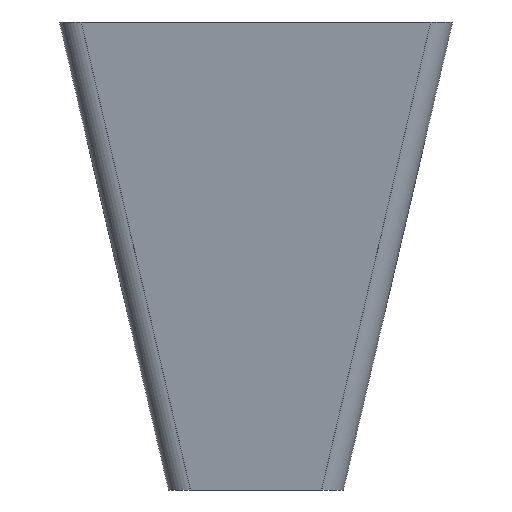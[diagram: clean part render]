
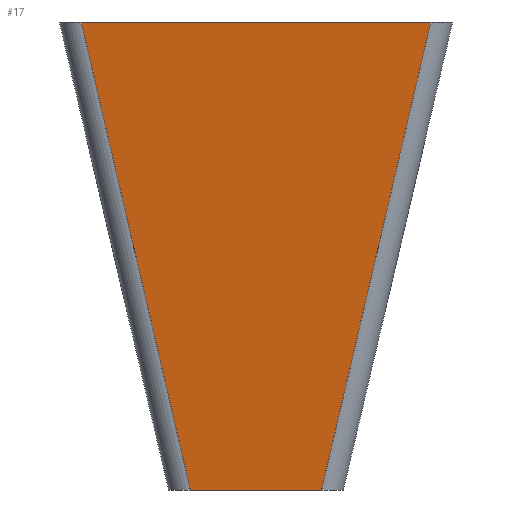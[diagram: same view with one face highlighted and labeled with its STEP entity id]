
A CAD part, left-side view. The second image highlights one B-rep face of the part: STEP entity #17.
In plain terms, the highlighted free-form (B-spline) face has degree [1, 1] with [2, 2] control points.
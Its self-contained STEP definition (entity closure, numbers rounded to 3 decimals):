
#17 = ADVANCED_FACE('',(#18),#32,.T.);
#18 = FACE_BOUND('',#19,.T.);
#19 = EDGE_LOOP('',(#20,#54,#93,#121));
#20 = ORIENTED_EDGE('',*,*,#21,.F.);
#21 = EDGE_CURVE('',#22,#24,#26,.T.);
#22 = VERTEX_POINT('',#23);
#23 = CARTESIAN_POINT('',(25.4,-41.7,-12.71));
#24 = VERTEX_POINT('',#25);
#25 = CARTESIAN_POINT('',(25.4,-38.7,-12.71));
#26 = SURFACE_CURVE('',#27,(#31,#42),.PCURVE_S1.);
#27 = LINE('',#28,#29);
#28 = CARTESIAN_POINT('',(25.4,-40.2,-12.71));
#29 = VECTOR('',#30,1.);
#30 = DIRECTION('',(0.,1.,0.));
#31 = PCURVE('',#32,#37);
#32 = B_SPLINE_SURFACE_WITH_KNOTS('',1,1,(
    (#33,#34)
    ,(#35,#36)),.UNSPECIFIED.,.F.,.F.,.F.,(2,2),(2,2),(-4.,4.),(0.,1.),
  .PIECEWISE_BEZIER_KNOTS.);
#33 = CARTESIAN_POINT('',(25.4,-38.7,-12.71));
#34 = CARTESIAN_POINT('',(23.9,-36.2,-2.));
#35 = CARTESIAN_POINT('',(25.4,-41.7,-12.71));
#36 = CARTESIAN_POINT('',(23.9,-44.2,-2.));
#37 = DEFINITIONAL_REPRESENTATION('',(#38),#41);
#38 = B_SPLINE_CURVE_WITH_KNOTS('',1,(#39,#40),.UNSPECIFIED.,.F.,.F.,(2,
    2),(-1.5,1.5),.PIECEWISE_BEZIER_KNOTS.);
#39 = CARTESIAN_POINT('',(4.,0.));
#40 = CARTESIAN_POINT('',(-4.,0.));
#41 = ( GEOMETRIC_REPRESENTATION_CONTEXT(2) 
PARAMETRIC_REPRESENTATION_CONTEXT() REPRESENTATION_CONTEXT('2D SPACE',''
  ) );
#42 = PCURVE('',#43,#48);
#43 = PLANE('',#44);
#44 = AXIS2_PLACEMENT_3D('',#45,#46,#47);
#45 = CARTESIAN_POINT('',(25.9,-38.7,-12.71));
#46 = DIRECTION('',(0.,0.,1.));
#47 = DIRECTION('',(1.,0.,0.));
#48 = DEFINITIONAL_REPRESENTATION('',(#49),#53);
#49 = LINE('',#50,#51);
#50 = CARTESIAN_POINT('',(-0.5,-1.5));
#51 = VECTOR('',#52,1.);
#52 = DIRECTION('',(0.,1.));
#53 = ( GEOMETRIC_REPRESENTATION_CONTEXT(2) 
PARAMETRIC_REPRESENTATION_CONTEXT() REPRESENTATION_CONTEXT('2D SPACE',''
  ) );
#54 = ORIENTED_EDGE('',*,*,#55,.T.);
#55 = EDGE_CURVE('',#22,#56,#58,.T.);
#56 = VERTEX_POINT('',#57);
#57 = CARTESIAN_POINT('',(23.9,-44.2,-2.));
#58 = SURFACE_CURVE('',#59,(#62,#69),.PCURVE_S1.);
#59 = B_SPLINE_CURVE_WITH_KNOTS('',1,(#60,#61),.UNSPECIFIED.,.F.,.F.,(2,
    2),(0.,1.),.PIECEWISE_BEZIER_KNOTS.);
#60 = CARTESIAN_POINT('',(25.4,-41.7,-12.71));
#61 = CARTESIAN_POINT('',(23.9,-44.2,-2.));
#62 = PCURVE('',#32,#63);
#63 = DEFINITIONAL_REPRESENTATION('',(#64),#68);
#64 = LINE('',#65,#66);
#65 = CARTESIAN_POINT('',(4.,0.));
#66 = VECTOR('',#67,1.);
#67 = DIRECTION('',(0.,1.));
#68 = ( GEOMETRIC_REPRESENTATION_CONTEXT(2) 
PARAMETRIC_REPRESENTATION_CONTEXT() REPRESENTATION_CONTEXT('2D SPACE',''
  ) );
#69 = PCURVE('',#70,#87);
#70 = B_SPLINE_SURFACE_WITH_KNOTS('',7,1,(
    (#71,#72)
    ,(#73,#74)
    ,(#75,#76)
    ,(#77,#78)
    ,(#79,#80)
    ,(#81,#82)
    ,(#83,#84)
    ,(#85,#86
    )),.UNSPECIFIED.,.F.,.F.,.F.,(8,8),(2,2),(3.142,
    4.712),(0.,1.),.PIECEWISE_BEZIER_KNOTS.);
#71 = CARTESIAN_POINT('',(25.4,-41.7,-12.71));
#72 = CARTESIAN_POINT('',(23.9,-44.2,-2.));
#73 = CARTESIAN_POINT('',(25.4,-41.812,-12.71));
#74 = CARTESIAN_POINT('',(23.9,-44.312,-2.));
#75 = CARTESIAN_POINT('',(25.429,-41.924,-12.71));
#76 = CARTESIAN_POINT('',(23.929,-44.424,-2.));
#77 = CARTESIAN_POINT('',(25.488,-42.027,
    -12.71));
#78 = CARTESIAN_POINT('',(23.988,-44.527,-2.));
#79 = CARTESIAN_POINT('',(25.573,-42.112,-12.71));
#80 = CARTESIAN_POINT('',(24.073,-44.612,-2.));
#81 = CARTESIAN_POINT('',(25.676,-42.171,-12.71));
#82 = CARTESIAN_POINT('',(24.176,-44.671,-2.));
#83 = CARTESIAN_POINT('',(25.788,-42.2,-12.71));
#84 = CARTESIAN_POINT('',(24.288,-44.7,-2.));
#85 = CARTESIAN_POINT('',(25.9,-42.2,-12.71));
#86 = CARTESIAN_POINT('',(24.4,-44.7,-2.));
#87 = DEFINITIONAL_REPRESENTATION('',(#88),#92);
#88 = LINE('',#89,#90);
#89 = CARTESIAN_POINT('',(3.142,0.));
#90 = VECTOR('',#91,1.);
#91 = DIRECTION('',(0.,1.));
#92 = ( GEOMETRIC_REPRESENTATION_CONTEXT(2) 
PARAMETRIC_REPRESENTATION_CONTEXT() REPRESENTATION_CONTEXT('2D SPACE',''
  ) );
#93 = ORIENTED_EDGE('',*,*,#94,.T.);
#94 = EDGE_CURVE('',#56,#95,#97,.T.);
#95 = VERTEX_POINT('',#96);
#96 = CARTESIAN_POINT('',(23.9,-36.2,-2.));
#97 = SURFACE_CURVE('',#98,(#102,#109),.PCURVE_S1.);
#98 = LINE('',#99,#100);
#99 = CARTESIAN_POINT('',(23.9,-40.2,-2.));
#100 = VECTOR('',#101,1.);
#101 = DIRECTION('',(0.,1.,0.));
#102 = PCURVE('',#32,#103);
#103 = DEFINITIONAL_REPRESENTATION('',(#104),#108);
#104 = LINE('',#105,#106);
#105 = CARTESIAN_POINT('',(0.,1.));
#106 = VECTOR('',#107,1.);
#107 = DIRECTION('',(-1.,0.));
#108 = ( GEOMETRIC_REPRESENTATION_CONTEXT(2) 
PARAMETRIC_REPRESENTATION_CONTEXT() REPRESENTATION_CONTEXT('2D SPACE',''
  ) );
#109 = PCURVE('',#110,#115);
#110 = PLANE('',#111);
#111 = AXIS2_PLACEMENT_3D('',#112,#113,#114);
#112 = CARTESIAN_POINT('',(24.4,-44.2,-2.));
#113 = DIRECTION('',(0.,0.,1.));
#114 = DIRECTION('',(1.,0.,0.));
#115 = DEFINITIONAL_REPRESENTATION('',(#116),#120);
#116 = LINE('',#117,#118);
#117 = CARTESIAN_POINT('',(-0.5,4.));
#118 = VECTOR('',#119,1.);
#119 = DIRECTION('',(0.,1.));
#120 = ( GEOMETRIC_REPRESENTATION_CONTEXT(2) 
PARAMETRIC_REPRESENTATION_CONTEXT() REPRESENTATION_CONTEXT('2D SPACE',''
  ) );
#121 = ORIENTED_EDGE('',*,*,#122,.F.);
#122 = EDGE_CURVE('',#24,#95,#123,.T.);
#123 = SURFACE_CURVE('',#124,(#127,#134),.PCURVE_S1.);
#124 = B_SPLINE_CURVE_WITH_KNOTS('',1,(#125,#126),.UNSPECIFIED.,.F.,.F.,
  (2,2),(0.,1.),.PIECEWISE_BEZIER_KNOTS.);
#125 = CARTESIAN_POINT('',(25.4,-38.7,-12.71));
#126 = CARTESIAN_POINT('',(23.9,-36.2,-2.));
#127 = PCURVE('',#32,#128);
#128 = DEFINITIONAL_REPRESENTATION('',(#129),#133);
#129 = LINE('',#130,#131);
#130 = CARTESIAN_POINT('',(-4.,0.));
#131 = VECTOR('',#132,1.);
#132 = DIRECTION('',(0.,1.));
#133 = ( GEOMETRIC_REPRESENTATION_CONTEXT(2) 
PARAMETRIC_REPRESENTATION_CONTEXT() REPRESENTATION_CONTEXT('2D SPACE',''
  ) );
#134 = PCURVE('',#135,#152);
#135 = B_SPLINE_SURFACE_WITH_KNOTS('',7,1,(
    (#136,#137)
    ,(#138,#139)
    ,(#140,#141)
    ,(#142,#143)
    ,(#144,#145)
    ,(#146,#147)
    ,(#148,#149)
    ,(#150,#151
    )),.UNSPECIFIED.,.F.,.F.,.F.,(8,8),(2,2),(1.571,
    3.142),(0.,1.),.PIECEWISE_BEZIER_KNOTS.);
#136 = CARTESIAN_POINT('',(25.9,-38.2,-12.71));
#137 = CARTESIAN_POINT('',(24.4,-35.7,-2.));
#138 = CARTESIAN_POINT('',(25.788,-38.2,-12.71));
#139 = CARTESIAN_POINT('',(24.288,-35.7,-2.));
#140 = CARTESIAN_POINT('',(25.676,-38.229,-12.71));
#141 = CARTESIAN_POINT('',(24.176,-35.729,-2.));
#142 = CARTESIAN_POINT('',(25.573,-38.288,-12.71));
#143 = CARTESIAN_POINT('',(24.073,-35.788,-2.));
#144 = CARTESIAN_POINT('',(25.488,-38.373,-12.71));
#145 = CARTESIAN_POINT('',(23.988,-35.873,-2.));
#146 = CARTESIAN_POINT('',(25.429,-38.476,-12.71));
#147 = CARTESIAN_POINT('',(23.929,-35.976,-2.));
#148 = CARTESIAN_POINT('',(25.4,-38.588,-12.71));
#149 = CARTESIAN_POINT('',(23.9,-36.088,-2.));
#150 = CARTESIAN_POINT('',(25.4,-38.7,-12.71));
#151 = CARTESIAN_POINT('',(23.9,-36.2,-2.));
#152 = DEFINITIONAL_REPRESENTATION('',(#153),#157);
#153 = LINE('',#154,#155);
#154 = CARTESIAN_POINT('',(3.142,0.));
#155 = VECTOR('',#156,1.);
#156 = DIRECTION('',(0.,1.));
#157 = ( GEOMETRIC_REPRESENTATION_CONTEXT(2) 
PARAMETRIC_REPRESENTATION_CONTEXT() REPRESENTATION_CONTEXT('2D SPACE',''
  ) );
